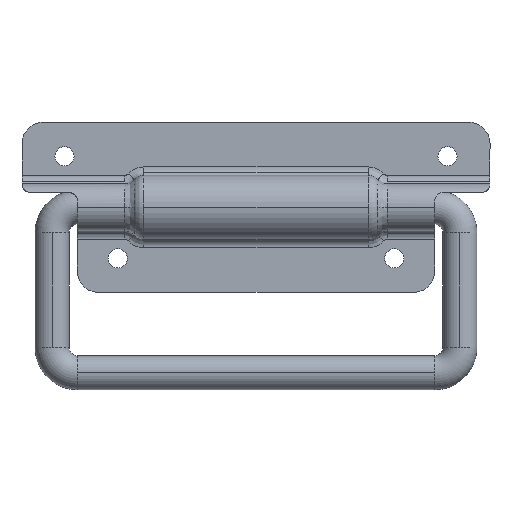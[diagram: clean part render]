
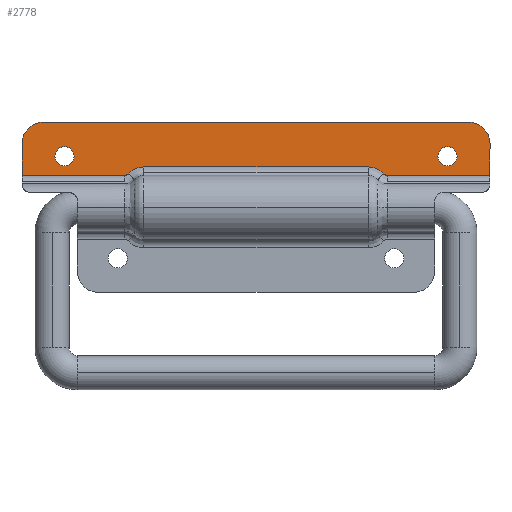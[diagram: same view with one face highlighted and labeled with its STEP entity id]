
A CAD part, left-side view. The second image highlights one B-rep face of the part: STEP entity #2778.
In plain terms, the highlighted planar face has unit normal (-1, 0, 0) as drawn and (0, 1, 0) by its records, which use the part's own axes.
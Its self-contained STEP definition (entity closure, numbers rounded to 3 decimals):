
#83=CARTESIAN_POINT('',(7.0,-88.683,27.257));
#84=VERTEX_POINT('',#83);
#100=CARTESIAN_POINT('',(7.0,-88.683,22.757));
#101=VERTEX_POINT('',#100);
#108=CARTESIAN_POINT('',(7.0,-88.683,25.007));
#109=DIRECTION('',(0.0,-1.0,0.0));
#110=DIRECTION('',(0.0,0.0,1.0));
#111=AXIS2_PLACEMENT_3D('',#108,#109,#110);
#112=CIRCLE('',#111,2.25);
#113=EDGE_CURVE('',#84,#101,#112,.T.);
#125=CARTESIAN_POINT('',(97.0,-88.683,27.257));
#126=VERTEX_POINT('',#125);
#142=CARTESIAN_POINT('',(97.0,-88.683,22.757));
#143=VERTEX_POINT('',#142);
#150=CARTESIAN_POINT('',(97.0,-88.683,25.007));
#151=DIRECTION('',(0.0,-1.0,0.0));
#152=DIRECTION('',(0.0,0.0,1.0));
#153=AXIS2_PLACEMENT_3D('',#150,#151,#152);
#154=CIRCLE('',#153,2.25);
#155=EDGE_CURVE('',#126,#143,#154,.T.);
#373=CARTESIAN_POINT('',(-1.536,-88.683,18.472));
#374=VERTEX_POINT('',#373);
#383=CARTESIAN_POINT('',(2.0,-88.683,17.007));
#384=VERTEX_POINT('',#383);
#385=CARTESIAN_POINT('',(2.,-88.683,22.007));
#386=DIRECTION('',(0.0,-1.,0.0));
#387=DIRECTION('',(-0.707,0.0,-0.707));
#388=AXIS2_PLACEMENT_3D('',#385,#386,#387);
#389=CIRCLE('',#388,5.);
#390=EDGE_CURVE('',#374,#384,#389,.T.);
#415=CARTESIAN_POINT('',(105.536,-88.683,18.472));
#416=VERTEX_POINT('',#415);
#425=CARTESIAN_POINT('',(107.0,-88.683,22.007));
#426=VERTEX_POINT('',#425);
#427=CARTESIAN_POINT('',(102.0,-88.683,22.007));
#428=DIRECTION('',(0.0,-1.,0.0));
#429=DIRECTION('',(0.707,0.0,-0.707));
#430=AXIS2_PLACEMENT_3D('',#427,#428,#429);
#431=CIRCLE('',#430,5.);
#432=EDGE_CURVE('',#416,#426,#431,.T.);
#1527=CARTESIAN_POINT('',(107.0,-88.683,29.507));
#1528=VERTEX_POINT('',#1527);
#1536=CARTESIAN_POINT('',(82.828,-88.683,29.507));
#1537=VERTEX_POINT('',#1536);
#1538=CARTESIAN_POINT('',(107.0,-88.683,29.507));
#1539=DIRECTION('',(-1.0,0.0,0.0));
#1540=VECTOR('',#1539,24.172);
#1541=LINE('',#1538,#1540);
#1542=EDGE_CURVE('',#1528,#1537,#1541,.T.);
#1644=CARTESIAN_POINT('',(21.172,-88.683,29.507));
#1645=VERTEX_POINT('',#1644);
#1653=CARTESIAN_POINT('',(-3.0,-88.683,29.507));
#1654=VERTEX_POINT('',#1653);
#1655=CARTESIAN_POINT('',(21.172,-88.683,29.507));
#1656=DIRECTION('',(-1.0,0.0,0.0));
#1657=VECTOR('',#1656,24.172);
#1658=LINE('',#1655,#1657);
#1659=EDGE_CURVE('',#1645,#1654,#1658,.T.);
#1694=CARTESIAN_POINT('',(21.917,-88.683,29.174));
#1695=VERTEX_POINT('',#1694);
#1703=CARTESIAN_POINT('',(21.172,-88.683,28.507));
#1704=DIRECTION('',(0.0,-1.,0.0));
#1705=DIRECTION('',(0.408,0.0,0.913));
#1706=AXIS2_PLACEMENT_3D('',#1703,#1704,#1705);
#1707=CIRCLE('',#1706,1.);
#1708=EDGE_CURVE('',#1695,#1645,#1707,.T.);
#1746=CARTESIAN_POINT('',(25.644,-88.683,27.507));
#1747=VERTEX_POINT('',#1746);
#1755=CARTESIAN_POINT('',(25.644,-88.683,32.507));
#1756=DIRECTION('',(0.0,1.0,0.0));
#1757=DIRECTION('',(-0.408,0.0,-0.913));
#1758=AXIS2_PLACEMENT_3D('',#1755,#1756,#1757);
#1759=CIRCLE('',#1758,5.0);
#1760=EDGE_CURVE('',#1747,#1695,#1759,.T.);
#1780=CARTESIAN_POINT('',(78.356,-88.683,27.507));
#1781=VERTEX_POINT('',#1780);
#1789=CARTESIAN_POINT('',(78.356,-88.683,27.507));
#1790=DIRECTION('',(-1.0,0.0,0.0));
#1791=VECTOR('',#1790,52.713);
#1792=LINE('',#1789,#1791);
#1793=EDGE_CURVE('',#1781,#1747,#1792,.T.);
#1822=CARTESIAN_POINT('',(82.083,-88.683,29.174));
#1823=VERTEX_POINT('',#1822);
#1831=CARTESIAN_POINT('',(78.356,-88.683,32.507));
#1832=DIRECTION('',(0.0,1.,0.0));
#1833=DIRECTION('',(0.408,0.0,-0.913));
#1834=AXIS2_PLACEMENT_3D('',#1831,#1832,#1833);
#1835=CIRCLE('',#1834,5.);
#1836=EDGE_CURVE('',#1823,#1781,#1835,.T.);
#1884=CARTESIAN_POINT('',(82.828,-88.683,28.507));
#1885=DIRECTION('',(0.0,-1.,0.0));
#1886=DIRECTION('',(-0.408,0.0,0.913));
#1887=AXIS2_PLACEMENT_3D('',#1884,#1885,#1886);
#1888=CIRCLE('',#1887,1.);
#1889=EDGE_CURVE('',#1537,#1823,#1888,.T.);
#2706=CARTESIAN_POINT('',(-3.0,-88.683,23.511));
#2707=DIRECTION('',(0.0,1.0,0.0));
#2708=DIRECTION('',(0.0,0.0,1.0));
#2709=AXIS2_PLACEMENT_3D('',#2706,#2707,#2708);
#2710=PLANE('',#2709);
#2711=ORIENTED_EDGE('',*,*,#1542,.F.);
#2712=CARTESIAN_POINT('',(107.0,-88.683,29.507));
#2713=DIRECTION('',(0.0,0.0,-1.0));
#2714=VECTOR('',#2713,7.5);
#2715=LINE('',#2712,#2714);
#2716=EDGE_CURVE('',#1528,#426,#2715,.T.);
#2717=ORIENTED_EDGE('',*,*,#2716,.T.);
#2718=ORIENTED_EDGE('',*,*,#432,.F.);
#2719=CARTESIAN_POINT('',(102.0,-88.683,17.007));
#2720=VERTEX_POINT('',#2719);
#2721=CARTESIAN_POINT('',(102.0,-88.683,22.007));
#2722=DIRECTION('',(0.0,-1.,0.0));
#2723=DIRECTION('',(0.707,0.0,-0.707));
#2724=AXIS2_PLACEMENT_3D('',#2721,#2722,#2723);
#2725=CIRCLE('',#2724,5.);
#2726=EDGE_CURVE('',#2720,#416,#2725,.T.);
#2727=ORIENTED_EDGE('',*,*,#2726,.F.);
#2728=CARTESIAN_POINT('',(2.0,-88.683,17.007));
#2729=DIRECTION('',(1.0,0.0,0.0));
#2730=VECTOR('',#2729,100.0);
#2731=LINE('',#2728,#2730);
#2732=EDGE_CURVE('',#384,#2720,#2731,.T.);
#2733=ORIENTED_EDGE('',*,*,#2732,.F.);
#2734=ORIENTED_EDGE('',*,*,#390,.F.);
#2735=CARTESIAN_POINT('',(-3.0,-88.683,22.007));
#2736=VERTEX_POINT('',#2735);
#2737=CARTESIAN_POINT('',(2.,-88.683,22.007));
#2738=DIRECTION('',(0.0,-1.,0.0));
#2739=DIRECTION('',(-0.707,0.0,-0.707));
#2740=AXIS2_PLACEMENT_3D('',#2737,#2738,#2739);
#2741=CIRCLE('',#2740,5.);
#2742=EDGE_CURVE('',#2736,#374,#2741,.T.);
#2743=ORIENTED_EDGE('',*,*,#2742,.F.);
#2744=CARTESIAN_POINT('',(-3.0,-88.683,29.507));
#2745=DIRECTION('',(0.0,0.0,-1.0));
#2746=VECTOR('',#2745,7.5);
#2747=LINE('',#2744,#2746);
#2748=EDGE_CURVE('',#1654,#2736,#2747,.T.);
#2749=ORIENTED_EDGE('',*,*,#2748,.F.);
#2750=ORIENTED_EDGE('',*,*,#1659,.F.);
#2751=ORIENTED_EDGE('',*,*,#1708,.F.);
#2752=ORIENTED_EDGE('',*,*,#1760,.F.);
#2753=ORIENTED_EDGE('',*,*,#1793,.F.);
#2754=ORIENTED_EDGE('',*,*,#1836,.F.);
#2755=ORIENTED_EDGE('',*,*,#1889,.F.);
#2756=EDGE_LOOP('',(#2711,#2717,#2718,#2727,#2733,#2734,#2743,#2749,#2750,#2751,#2752,#2753,#2754,#2755));
#2757=FACE_OUTER_BOUND('',#2756,.T.);
#2758=ORIENTED_EDGE('',*,*,#113,.T.);
#2759=CARTESIAN_POINT('',(7.0,-88.683,25.007));
#2760=DIRECTION('',(0.0,-1.0,0.0));
#2761=DIRECTION('',(0.0,0.0,1.0));
#2762=AXIS2_PLACEMENT_3D('',#2759,#2760,#2761);
#2763=CIRCLE('',#2762,2.25);
#2764=EDGE_CURVE('',#101,#84,#2763,.T.);
#2765=ORIENTED_EDGE('',*,*,#2764,.T.);
#2766=EDGE_LOOP('',(#2758,#2765));
#2767=FACE_BOUND('',#2766,.T.);
#2768=ORIENTED_EDGE('',*,*,#155,.T.);
#2769=CARTESIAN_POINT('',(97.0,-88.683,25.007));
#2770=DIRECTION('',(0.0,-1.0,0.0));
#2771=DIRECTION('',(0.0,0.0,1.0));
#2772=AXIS2_PLACEMENT_3D('',#2769,#2770,#2771);
#2773=CIRCLE('',#2772,2.25);
#2774=EDGE_CURVE('',#143,#126,#2773,.T.);
#2775=ORIENTED_EDGE('',*,*,#2774,.T.);
#2776=EDGE_LOOP('',(#2768,#2775));
#2777=FACE_BOUND('',#2776,.T.);
#2778=ADVANCED_FACE('',(#2757,#2767,#2777),#2710,.T.);
